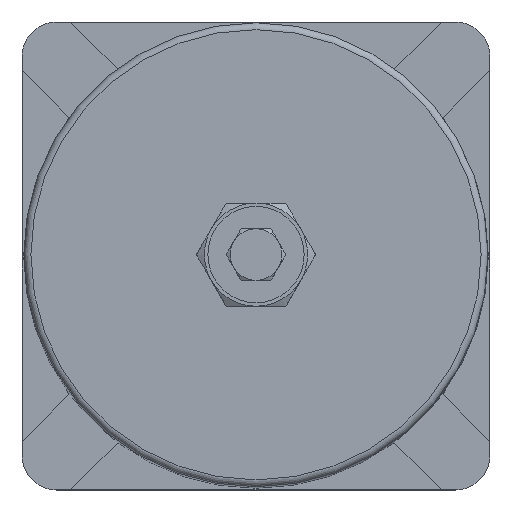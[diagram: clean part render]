
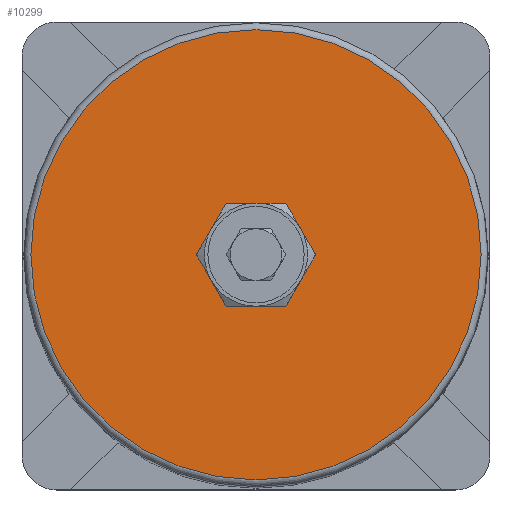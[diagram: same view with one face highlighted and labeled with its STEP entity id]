
A CAD part, top view. The second image highlights one B-rep face of the part: STEP entity #10299.
In plain terms, the highlighted planar face has unit normal (0, 0, 1).
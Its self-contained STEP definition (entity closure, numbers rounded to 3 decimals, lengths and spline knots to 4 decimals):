
#2283=FACE_BOUND('',#3137,.T.);
#2396=FACE_OUTER_BOUND('',#3136,.T.);
#3136=EDGE_LOOP('',(#6651));
#3137=EDGE_LOOP('',(#6652));
#3829=CIRCLE('',#10965,0.6606);
#3858=CIRCLE('',#11069,4.0892);
#3940=VERTEX_POINT('',#12131);
#4054=VERTEX_POINT('',#12601);
#4775=EDGE_CURVE('',#3940,#3940,#3829,.T.);
#4960=EDGE_CURVE('',#4054,#4054,#3858,.T.);
#6651=ORIENTED_EDGE('',*,*,#4960,.F.);
#6652=ORIENTED_EDGE('',*,*,#4775,.T.);
#9407=PLANE('',#11072);
#10299=ADVANCED_FACE('',(#2396,#2283),#9407,.T.);
#10965=AXIS2_PLACEMENT_3D('',#12132,#11273,#11274);
#11069=AXIS2_PLACEMENT_3D('',#12602,#11589,#11590);
#11072=AXIS2_PLACEMENT_3D('',#12606,#11595,#11596);
#11273=DIRECTION('center_axis',(0.,0.,
-1.));
#11274=DIRECTION('ref_axis',(0.,1.,0.));
#11589=DIRECTION('center_axis',(0.,0.,
-1.));
#11590=DIRECTION('ref_axis',(-1.,0.,0.));
#11595=DIRECTION('center_axis',(0.,0.,
1.));
#11596=DIRECTION('ref_axis',(1.,0.,0.));
#12131=CARTESIAN_POINT('',(0.,0.6606,13.1875));
#12132=CARTESIAN_POINT('Origin',(0.,0.,
13.1875));
#12601=CARTESIAN_POINT('',(4.0892,0.,13.1875));
#12602=CARTESIAN_POINT('Origin',(0.,0.,
13.1875));
#12606=CARTESIAN_POINT('Origin',(2.3867,0.,13.1875));
